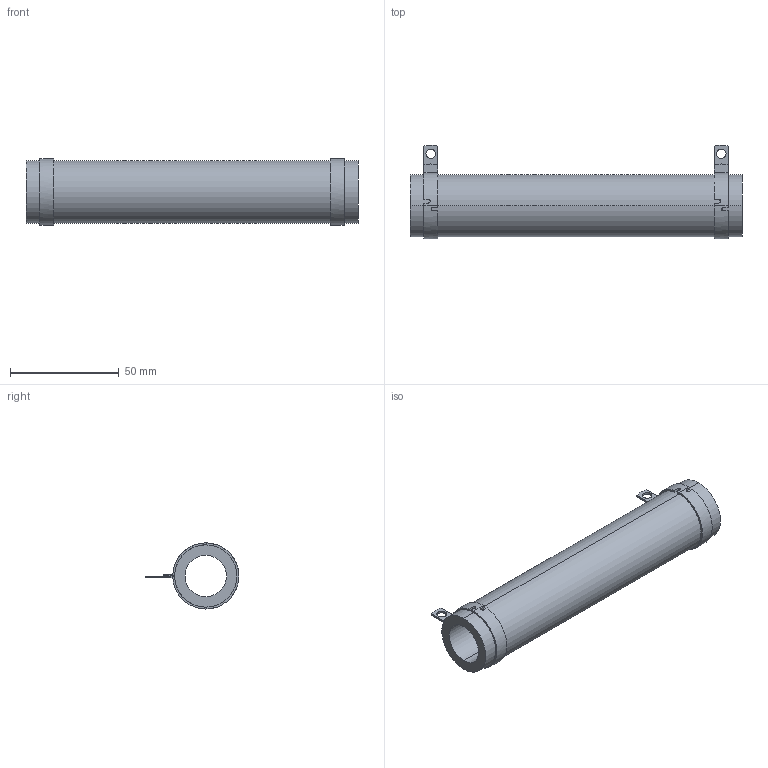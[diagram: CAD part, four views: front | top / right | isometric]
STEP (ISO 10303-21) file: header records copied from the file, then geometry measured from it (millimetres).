
FILE_DESCRIPTION (( 'STEP AP203' ), '1' );
FILE_NAME ('RBEF0220xxxxxKFB00.STEP', '2014-04-04T18:49:50', ( '' ), ( '' ), 'SwSTEP 2.0', 'SolidWorks 2012', '' );
FILE_SCHEMA (( 'CONFIG_CONTROL_DESIGN' ));
Length unit declared in the file: millimetre
Products named in the file (3): DAL15-160-XXX_DAL15-160-918-CLOSED; DAL013-06_DAL013-129; RBEF0220xxxxxKFB00
Assembly tree (3 placements, depth 2):
  RBEF0220xxxxxKFB00
    DAL013-06_DAL013-129
    DAL15-160-XXX_DAL15-160-918-CLOSED  x2
Bounding box: 152.4 x 43.03 x 30.35 mm (x, y, z)
Volume: 55478.2 mm3; surface area: 26620.9 mm2
Topology: 3 solids, 3 shells, 80 faces, 190 edges, 116 vertices
Faces by surface type: plane 42, cylinder 34, bspline 4
Entity records: 1692 total; most frequent: CARTESIAN_POINT 352, DIRECTION 229, ORIENTED_EDGE 202, EDGE_CURVE 101, AXIS2_PLACEMENT_3D 89, VERTEX_POINT 62, LINE 51, VECTOR 51
